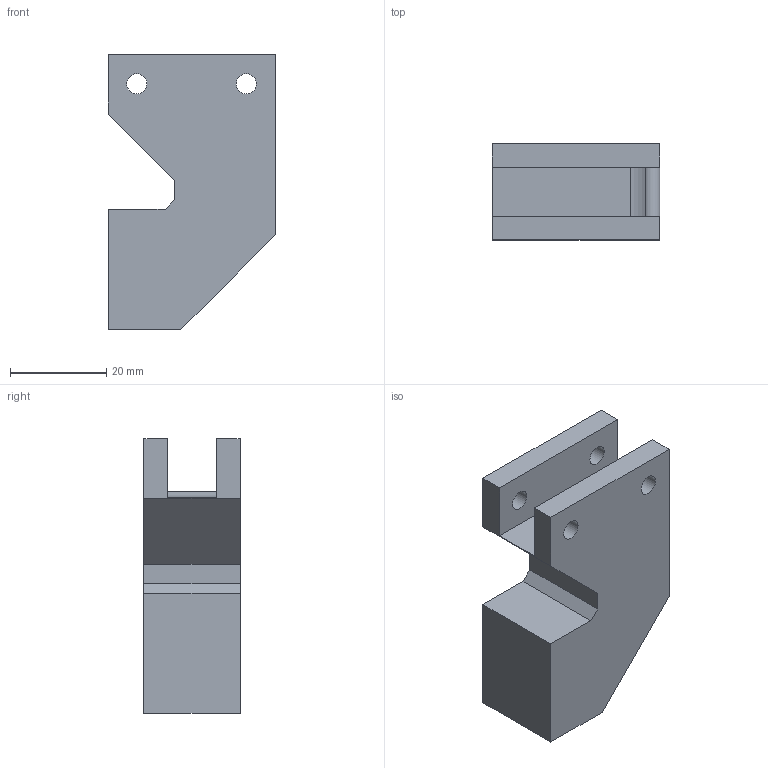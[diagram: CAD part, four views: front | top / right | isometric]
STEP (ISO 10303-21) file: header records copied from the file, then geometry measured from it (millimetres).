
FILE_DESCRIPTION(/* description */ (''),/* implementation_level */ '2;1');
FILE_NAME(/* name */ 'szczeka I.step',/* time_stamp */ '2026-03-04T15:16:34+01:00',/* author */ (''),/* organization */ (''),/* preprocessor_version */ 'ST-DEVELOPER v20.1',/* originating_system */ 'Autodesk Translation Framework v14.24.0.0',/* authorisation */ '');
FILE_SCHEMA (('AUTOMOTIVE_DESIGN { 1 0 10303 214 3 1 1 }'));
Length unit declared in the file: millimetre
Products named in the file (1): szczeka I
Bounding box: 34.81 x 20 x 57.2 mm (x, y, z)
Volume: 27839.1 mm3; surface area: 7803.6 mm2
Topology: 1 solids, 1 shells, 22 faces, 60 edges, 40 vertices
Faces by surface type: plane 16, cylinder 6
Full cylindrical faces by diameter (mm): 4.2 x4
Entity records: 745 total; most frequent: CARTESIAN_POINT 123, ORIENTED_EDGE 120, DIRECTION 118, EDGE_CURVE 60, LINE 48, VECTOR 48, VERTEX_POINT 40, AXIS2_PLACEMENT_3D 35
